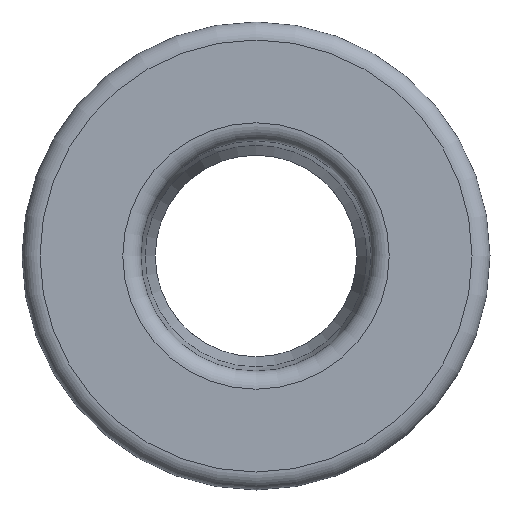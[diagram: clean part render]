
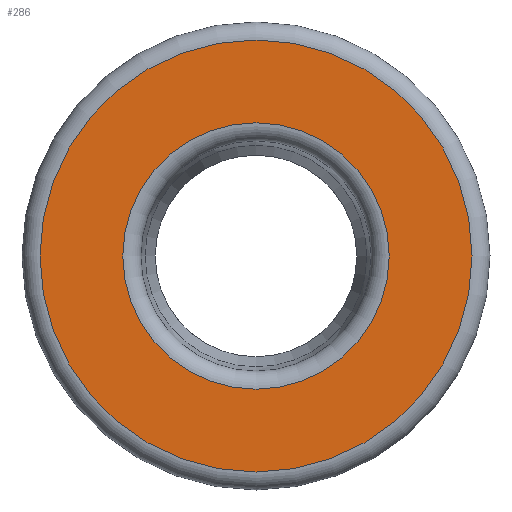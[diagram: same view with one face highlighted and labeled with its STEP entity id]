
A CAD part, left-side view. The second image highlights one B-rep face of the part: STEP entity #286.
In plain terms, the highlighted planar face has unit normal (-1, 0, 0).
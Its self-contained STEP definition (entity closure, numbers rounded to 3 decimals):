
#50=FACE_BOUND($,#109,.T.);
#51=FACE_BOUND($,#110,.T.);
#109=EDGE_LOOP($,(#232));
#110=EDGE_LOOP($,(#233));
#136=CIRCLE($,#331,18.5);
#137=CIRCLE($,#333,30.);
#160=VERTEX_POINT($,#520);
#161=VERTEX_POINT($,#523);
#185=EDGE_CURVE($,#160,#160,#136,.T.);
#186=EDGE_CURVE($,#161,#161,#137,.T.);
#232=ORIENTED_EDGE($,*,*,#185,.T.);
#233=ORIENTED_EDGE($,*,*,#186,.F.);
#243=PLANE($,#332);
#286=ADVANCED_FACE($,(#50,#51),#243,.T.);
#331=AXIS2_PLACEMENT_3D($,#521,#417,#418);
#332=AXIS2_PLACEMENT_3D($,#522,#419,#420);
#333=AXIS2_PLACEMENT_3D($,#524,#421,#422);
#417=DIRECTION('center_axis',(1.,0.,0.));
#418=DIRECTION('ref_axis',(0.,0.,-1.));
#419=DIRECTION('center_axis',(-1.,0.,0.));
#420=DIRECTION('ref_axis',(0.,0.,1.));
#421=DIRECTION('center_axis',(1.,0.,0.));
#422=DIRECTION('ref_axis',(0.,0.,-1.));
#520=CARTESIAN_POINT('',(0.,18.5,0.));
#521=CARTESIAN_POINT('Origin',(0.,0.,0.));
#522=CARTESIAN_POINT('Origin',(0.,30.,0.));
#523=CARTESIAN_POINT('',(0.,30.,0.));
#524=CARTESIAN_POINT('Origin',(0.,0.,0.));
